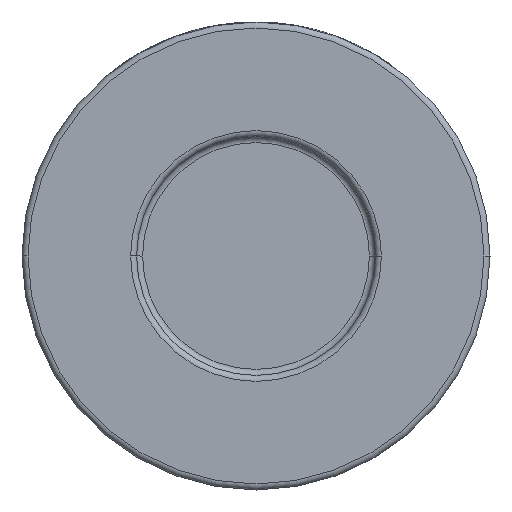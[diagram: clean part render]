
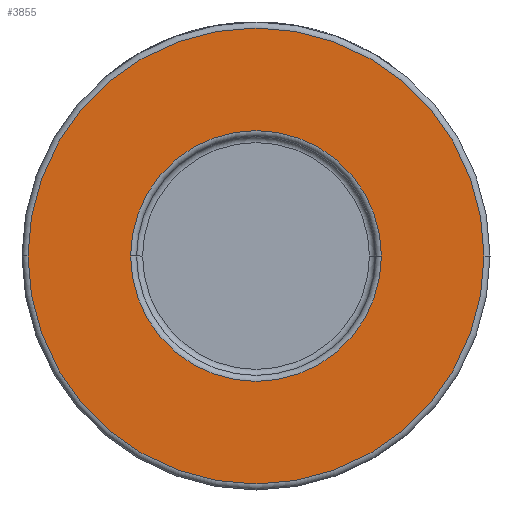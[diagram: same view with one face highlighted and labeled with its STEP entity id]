
A CAD part, front view. The second image highlights one B-rep face of the part: STEP entity #3855.
In plain terms, the highlighted planar face has unit normal (0, -1, 0).
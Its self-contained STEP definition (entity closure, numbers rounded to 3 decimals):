
#118 = CARTESIAN_POINT ( 'NONE',  ( 38., -26., 0. ) ) ;
#164 = CARTESIAN_POINT ( 'NONE',  ( 0., -26., 0. ) ) ;
#218 = CIRCLE ( 'NONE', #662, 38. ) ;
#350 = CARTESIAN_POINT ( 'NONE',  ( -38., -26., 0. ) ) ;
#353 = CARTESIAN_POINT ( 'NONE',  ( 0., -26., 0. ) ) ;
#363 = CIRCLE ( 'NONE', #3354, 38. ) ;
#474 = EDGE_CURVE ( 'NONE', #3003, #4454, #363, .T. ) ;
#643 = ORIENTED_EDGE ( 'NONE', *, *, #1150, .T. ) ;
#662 = AXIS2_PLACEMENT_3D ( 'NONE', #1110, #1439, #737 ) ;
#737 = DIRECTION ( 'NONE',  ( 1., 0., 0. ) ) ;
#828 = DIRECTION ( 'NONE',  ( 0., 1., 0. ) ) ;
#952 = ORIENTED_EDGE ( 'NONE', *, *, #474, .T. ) ;
#978 = FACE_OUTER_BOUND ( 'NONE', #4480, .T. ) ;
#1087 = AXIS2_PLACEMENT_3D ( 'NONE', #3000, #828, #2294 ) ;
#1110 = CARTESIAN_POINT ( 'NONE',  ( 0., -26., 0. ) ) ;
#1150 = EDGE_CURVE ( 'NONE', #4454, #3003, #218, .T. ) ;
#1196 = ORIENTED_EDGE ( 'NONE', *, *, #2112, .T. ) ;
#1209 = AXIS2_PLACEMENT_3D ( 'NONE', #4261, #1340, #2113 ) ;
#1340 = DIRECTION ( 'NONE',  ( 0., -1., 0. ) ) ;
#1439 = DIRECTION ( 'NONE',  ( 0., -1., 0. ) ) ;
#1674 = DIRECTION ( 'NONE',  ( 0., 1., 0. ) ) ;
#1703 = CIRCLE ( 'NONE', #3634, 20.9 ) ;
#2000 = EDGE_CURVE ( 'NONE', #2205, #4467, #1703, .T. ) ;
#2112 = EDGE_CURVE ( 'NONE', #4467, #2205, #2757, .T. ) ;
#2113 = DIRECTION ( 'NONE',  ( 1., 0., 0. ) ) ;
#2205 = VERTEX_POINT ( 'NONE', #3122 ) ;
#2294 = DIRECTION ( 'NONE',  ( 1., 0., 0. ) ) ;
#2757 = CIRCLE ( 'NONE', #1087, 20.9 ) ;
#2825 = DIRECTION ( 'NONE',  ( 0., -1., 0. ) ) ;
#3000 = CARTESIAN_POINT ( 'NONE',  ( 0., -26., 0. ) ) ;
#3003 = VERTEX_POINT ( 'NONE', #350 ) ;
#3104 = DIRECTION ( 'NONE',  ( 1., 0., 0. ) ) ;
#3122 = CARTESIAN_POINT ( 'NONE',  ( -20.9, -26., 0. ) ) ;
#3321 = EDGE_LOOP ( 'NONE', ( #1196, #4126 ) ) ;
#3354 = AXIS2_PLACEMENT_3D ( 'NONE', #353, #2825, #4242 ) ;
#3634 = AXIS2_PLACEMENT_3D ( 'NONE', #164, #1674, #3104 ) ;
#3855 = ADVANCED_FACE ( 'NONE', ( #4610, #978 ), #3887, .T. ) ;
#3887 = PLANE ( 'NONE',  #1209 ) ;
#4126 = ORIENTED_EDGE ( 'NONE', *, *, #2000, .T. ) ;
#4242 = DIRECTION ( 'NONE',  ( 1., 0., 0. ) ) ;
#4261 = CARTESIAN_POINT ( 'NONE',  ( 39., -26., 0. ) ) ;
#4400 = CARTESIAN_POINT ( 'NONE',  ( 20.9, -26., 0. ) ) ;
#4454 = VERTEX_POINT ( 'NONE', #118 ) ;
#4467 = VERTEX_POINT ( 'NONE', #4400 ) ;
#4480 = EDGE_LOOP ( 'NONE', ( #643, #952 ) ) ;
#4610 = FACE_BOUND ( 'NONE', #3321, .T. ) ;
